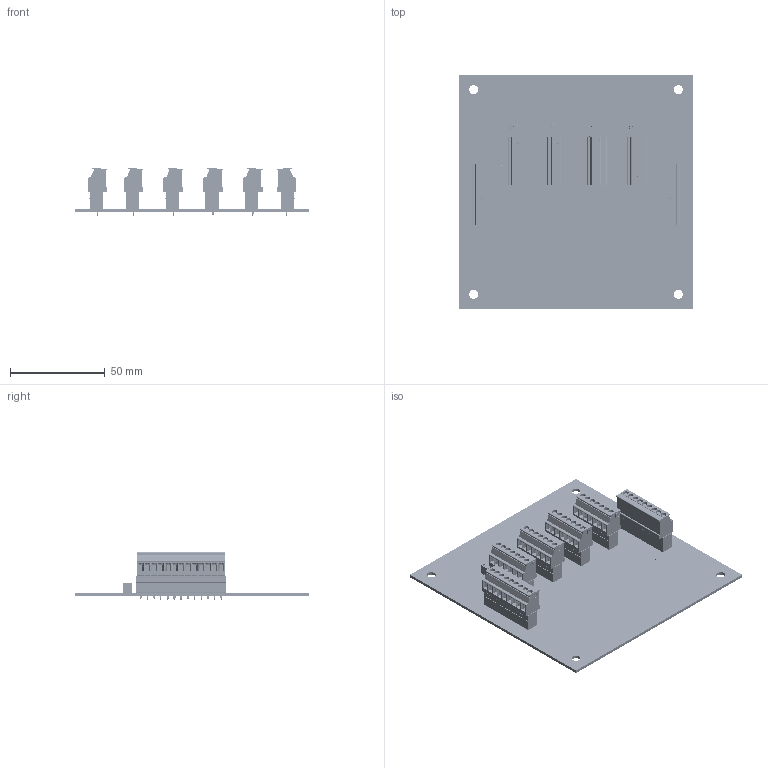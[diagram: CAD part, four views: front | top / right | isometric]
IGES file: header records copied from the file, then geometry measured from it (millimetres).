
Start section: SolidWorks IGES file using analytic representation for surfaces
Global section: file name: C:\0_Work\SolidWorks\HI 6020 Series\HI6020IT-SC2.IGS; native system: SolidWorks 2020; preprocessor: SolidWorks 2020; author: vach01; date: 210610.124109; units: inch
Bounding box: 123.83 x 123.83 x 25.1 mm (x, y, z)
Surface area: 64499.3 mm2 (no closed solid volume)
Topology: 0 solids, 0 shells, 10482 faces, 88846 edges, 88806 vertices
Faces by surface type: bspline 8444, revolution 2038
